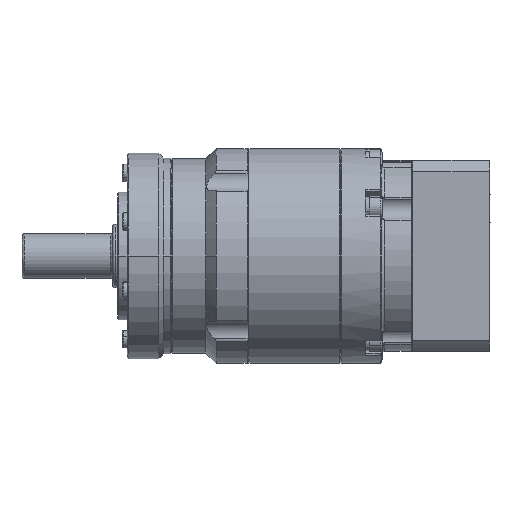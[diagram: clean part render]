
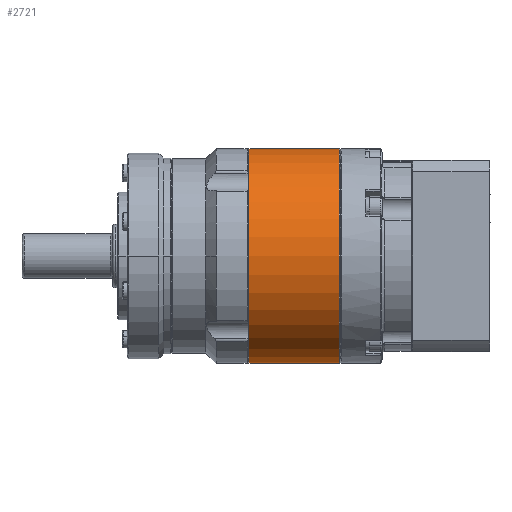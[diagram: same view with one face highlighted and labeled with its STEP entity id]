
A CAD part, front view. The second image highlights one B-rep face of the part: STEP entity #2721.
In plain terms, the highlighted cylindrical face has radius 33.75 mm (diameter 67.5 mm), a partial arc.
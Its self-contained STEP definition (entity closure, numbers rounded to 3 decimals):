
#398 = CARTESIAN_POINT ( 'NONE',  ( -4.798, 0., 0. ) ) ;
#417 = EDGE_LOOP ( 'NONE', ( #22460, #8153, #32954, #17798 ) ) ;
#2721 = ADVANCED_FACE ( 'NONE', ( #20804 ), #23803, .T. ) ;
#3638 = DIRECTION ( 'NONE',  ( -1., 0., 0. ) ) ;
#4803 = VERTEX_POINT ( 'NONE', #23547 ) ;
#4815 = VECTOR ( 'NONE', #14119, 1000. ) ;
#7251 = EDGE_CURVE ( 'NONE', #16171, #23836, #17230, .T. ) ;
#7548 = DIRECTION ( 'NONE',  ( -1., 0., 0. ) ) ;
#7654 = CARTESIAN_POINT ( 'NONE',  ( -4.798, 0., -33.75 ) ) ;
#8121 = CARTESIAN_POINT ( 'NONE',  ( 28.7, 0., 0. ) ) ;
#8153 = ORIENTED_EDGE ( 'NONE', *, *, #20680, .T. ) ;
#9872 = DIRECTION ( 'NONE',  ( 0., 0., -1. ) ) ;
#9893 = AXIS2_PLACEMENT_3D ( 'NONE', #398, #3638, #38974 ) ;
#12658 = CARTESIAN_POINT ( 'NONE',  ( 28.7, 0., 33.75 ) ) ;
#14119 = DIRECTION ( 'NONE',  ( -1., 0., 0. ) ) ;
#15187 = AXIS2_PLACEMENT_3D ( 'NONE', #8121, #7548, #36932 ) ;
#16171 = VERTEX_POINT ( 'NONE', #12658 ) ;
#17230 = LINE ( 'NONE', #21212, #18190 ) ;
#17387 = CARTESIAN_POINT ( 'NONE',  ( 0.3, 0., 33.75 ) ) ;
#17655 = AXIS2_PLACEMENT_3D ( 'NONE', #31841, #29009, #9872 ) ;
#17798 = ORIENTED_EDGE ( 'NONE', *, *, #35889, .F. ) ;
#18190 = VECTOR ( 'NONE', #24738, 1000. ) ;
#19400 = CIRCLE ( 'NONE', #15187, 33.75 ) ;
#20680 = EDGE_CURVE ( 'NONE', #4803, #16171, #19400, .T. ) ;
#20804 = FACE_OUTER_BOUND ( 'NONE', #417, .T. ) ;
#21212 = CARTESIAN_POINT ( 'NONE',  ( -4.798, 0., 33.75 ) ) ;
#21374 = LINE ( 'NONE', #7654, #4815 ) ;
#21609 = CIRCLE ( 'NONE', #17655, 33.75 ) ;
#22460 = ORIENTED_EDGE ( 'NONE', *, *, #37034, .F. ) ;
#23547 = CARTESIAN_POINT ( 'NONE',  ( 28.7, 0., -33.75 ) ) ;
#23803 = CYLINDRICAL_SURFACE ( 'NONE', #9893, 33.75 ) ;
#23836 = VERTEX_POINT ( 'NONE', #17387 ) ;
#24738 = DIRECTION ( 'NONE',  ( -1., 0., 0. ) ) ;
#29009 = DIRECTION ( 'NONE',  ( -1., 0., 0. ) ) ;
#31841 = CARTESIAN_POINT ( 'NONE',  ( 0.3, 0., 0. ) ) ;
#32954 = ORIENTED_EDGE ( 'NONE', *, *, #7251, .T. ) ;
#35618 = VERTEX_POINT ( 'NONE', #40148 ) ;
#35889 = EDGE_CURVE ( 'NONE', #35618, #23836, #21609, .T. ) ;
#36932 = DIRECTION ( 'NONE',  ( 0., 0., 1. ) ) ;
#37034 = EDGE_CURVE ( 'NONE', #4803, #35618, #21374, .T. ) ;
#38974 = DIRECTION ( 'NONE',  ( 0., 0., 1. ) ) ;
#40148 = CARTESIAN_POINT ( 'NONE',  ( 0.3, 0., -33.75 ) ) ;
